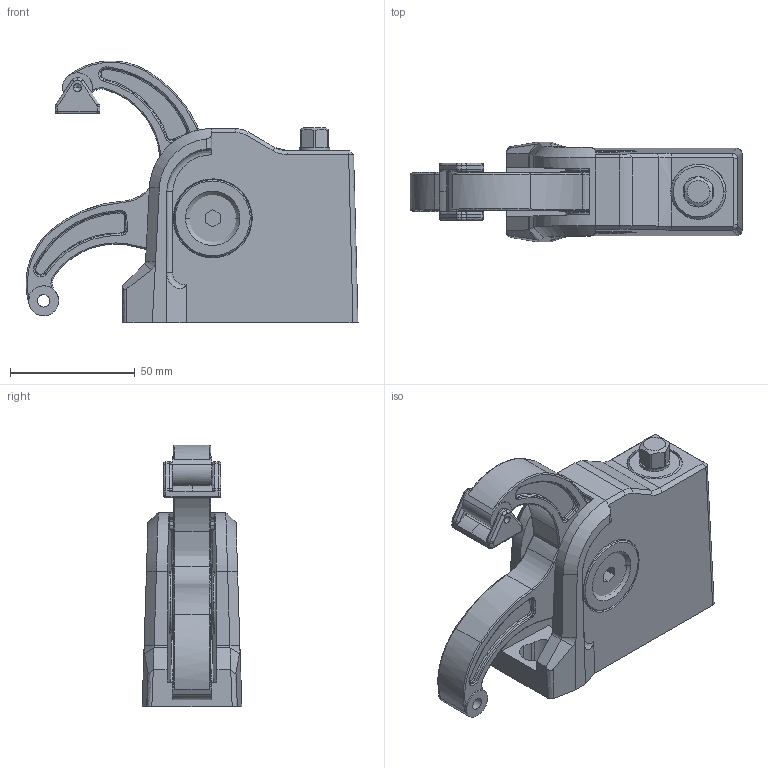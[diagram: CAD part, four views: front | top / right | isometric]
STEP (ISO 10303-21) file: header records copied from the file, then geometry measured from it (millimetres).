
FILE_DESCRIPTION( ( 'STEP AP214' ), '1' );
FILE_NAME( 'S:/BAS-CB9-4.stp', ' ', ( ' ' ), ( ' ' ), 'PSStep 11.0', ' ', ' ' );
FILE_SCHEMA( ( 'AUTOMOTIVE_DESIGN { 1 0 10303 214 1 1 1 1 }' ) );
Length unit declared in the file: metre
Products named in the file (10): 1; 2; 3; 4; 5; 6; 7; 8; 9; 10
Bounding box: 133.26 x 40 x 105.15 mm (x, y, z)
Volume: 229477.3 mm3; surface area: 73955.5 mm2
Topology: 10 solids, 10 shells, 534 faces, 1247 edges, 735 vertices
Faces by surface type: bspline 534
Entity records: 33543 total; most frequent: CARTESIAN_POINT 22074, ORIENTED_EDGE 2458, EDGE_CURVE 1229, B_SPLINE_CURVE_WITH_KNOTS 754, VERTEX_POINT 735, EDGE_LOOP 580, STYLED_ITEM 534, PRESENTATION_STYLE_ASSIGNMENT 534
